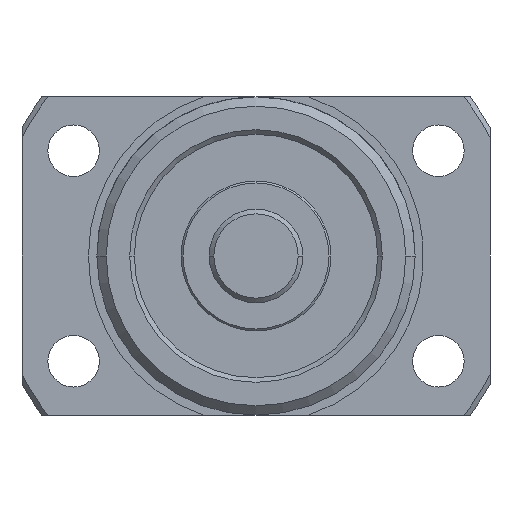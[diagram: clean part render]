
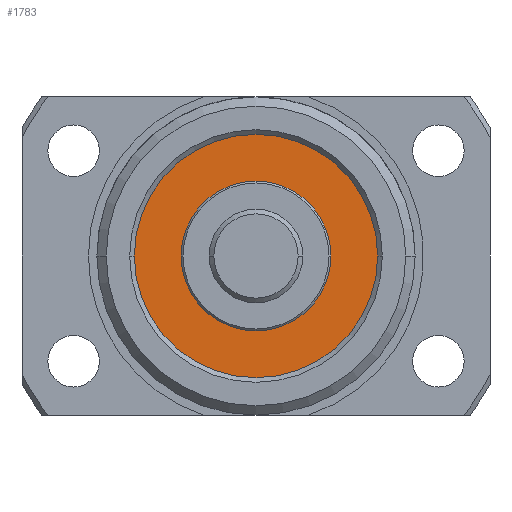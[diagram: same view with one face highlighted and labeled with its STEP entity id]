
A CAD part, left-side view. The second image highlights one B-rep face of the part: STEP entity #1783.
In plain terms, the highlighted planar face has unit normal (-1, 0, 0).
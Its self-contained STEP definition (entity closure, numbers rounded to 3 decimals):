
#221 = CARTESIAN_POINT ( 'NONE',  ( -55.5, -13., 0. ) ) ;
#262 = CARTESIAN_POINT ( 'NONE',  ( -55.5, 0., 0. ) ) ;
#263 = DIRECTION ( 'NONE',  ( -1., 0., 0. ) ) ;
#264 = DIRECTION ( 'NONE',  ( 0., -1., 0. ) ) ;
#545 = DIRECTION ( 'NONE',  ( 0., -1., 0. ) ) ;
#547 = PLANE ( 'NONE',  #3988 ) ;
#548 = CARTESIAN_POINT ( 'NONE',  ( -55.5, 0., 0. ) ) ;
#552 = DIRECTION ( 'NONE',  ( -1., 0., 0. ) ) ;
#749 = CARTESIAN_POINT ( 'NONE',  ( -55.5, 0., 0. ) ) ;
#750 = DIRECTION ( 'NONE',  ( -1., 0., 0. ) ) ;
#751 = DIRECTION ( 'NONE',  ( 0., -1., 0. ) ) ;
#870 = CIRCLE ( 'NONE', #4048, 8. ) ;
#943 = CIRCLE ( 'NONE', #4074, 13. ) ;
#1143 = EDGE_LOOP ( 'NONE', ( #2808, #2769 ) ) ;
#1237 = AXIS2_PLACEMENT_3D ( 'NONE', #5064, #5065, #5066 ) ;
#1489 = FACE_BOUND ( 'NONE', #1143, .T. ) ;
#1491 = FACE_OUTER_BOUND ( 'NONE', #3853, .T. ) ;
#1566 = CIRCLE ( 'NONE', #4030, 13. ) ;
#1783 = ADVANCED_FACE ( 'NONE', ( #1489, #1491 ), #547, .T. ) ;
#2234 = VERTEX_POINT ( 'NONE', #221 ) ;
#2284 = VERTEX_POINT ( 'NONE', #3020 ) ;
#2316 = VERTEX_POINT ( 'NONE', #3052 ) ;
#2317 = VERTEX_POINT ( 'NONE', #3053 ) ;
#2715 = ORIENTED_EDGE ( 'NONE', *, *, #5241, .T. ) ;
#2769 = ORIENTED_EDGE ( 'NONE', *, *, #5272, .F. ) ;
#2778 = ORIENTED_EDGE ( 'NONE', *, *, #5320, .T. ) ;
#2808 = ORIENTED_EDGE ( 'NONE', *, *, #5540, .F. ) ;
#3020 = CARTESIAN_POINT ( 'NONE',  ( -55.5, 13., 0. ) ) ;
#3052 = CARTESIAN_POINT ( 'NONE',  ( -55.5, 0., -8. ) ) ;
#3053 = CARTESIAN_POINT ( 'NONE',  ( -55.5, 0., 8. ) ) ;
#3853 = EDGE_LOOP ( 'NONE', ( #2715, #2778 ) ) ;
#3988 = AXIS2_PLACEMENT_3D ( 'NONE', #548, #552, #545 ) ;
#4030 = AXIS2_PLACEMENT_3D ( 'NONE', #5813, #5814, #5815 ) ;
#4048 = AXIS2_PLACEMENT_3D ( 'NONE', #749, #750, #751 ) ;
#4074 = AXIS2_PLACEMENT_3D ( 'NONE', #262, #263, #264 ) ;
#4500 = CIRCLE ( 'NONE', #1237, 8. ) ;
#5064 = CARTESIAN_POINT ( 'NONE',  ( -55.5, 0., 0. ) ) ;
#5065 = DIRECTION ( 'NONE',  ( -1., 0., 0. ) ) ;
#5066 = DIRECTION ( 'NONE',  ( 0., -1., 0. ) ) ;
#5241 = EDGE_CURVE ( 'NONE', #2234, #2284, #1566, .T. ) ;
#5272 = EDGE_CURVE ( 'NONE', #2317, #2316, #870, .T. ) ;
#5320 = EDGE_CURVE ( 'NONE', #2284, #2234, #943, .T. ) ;
#5540 = EDGE_CURVE ( 'NONE', #2316, #2317, #4500, .T. ) ;
#5813 = CARTESIAN_POINT ( 'NONE',  ( -55.5, 0., 0. ) ) ;
#5814 = DIRECTION ( 'NONE',  ( -1., 0., 0. ) ) ;
#5815 = DIRECTION ( 'NONE',  ( 0., -1., 0. ) ) ;
